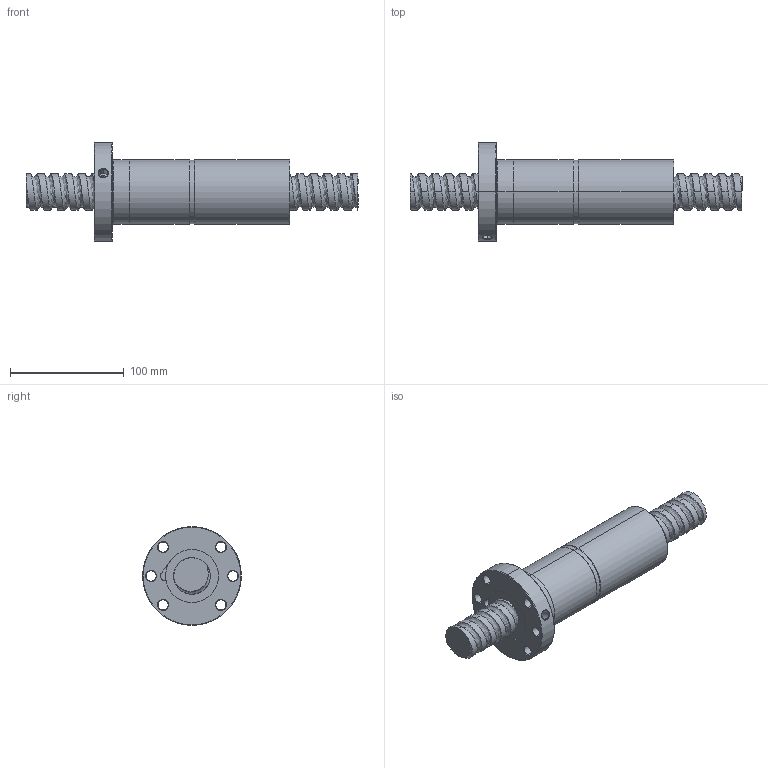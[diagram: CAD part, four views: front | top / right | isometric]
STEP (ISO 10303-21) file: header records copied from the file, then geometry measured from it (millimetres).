
FILE_DESCRIPTION (( 'STEP AP214' ), '1' );
FILE_NAME ('FDDC03212T5-F-A.STEP', '2010-07-06T05:19:35', ( 'XPAUTO' ), ( 'XPAUTO' ), 'SwSTEP 2.0', 'SolidWorks 2007', '' );
FILE_SCHEMA (( 'AUTOMOTIVE_DESIGN' ));
Length unit declared in the file: millimetre
Products named in the file (3): FDDC03212T5-F-A.sldasm-Part-1_預設; FDDC03212T5-F-A; FDDC03212T5-F-A.sldasm-Part-2_預設
Assembly tree (2 placements, depth 2):
  FDDC03212T5-F-A
    FDDC03212T5-F-A.sldasm-Part-1_預設
    FDDC03212T5-F-A.sldasm-Part-2_預設
Bounding box: 292 x 87 x 87 mm (x, y, z)
Volume: 551640.3 mm3; surface area: 97543.5 mm2
Topology: 2 solids, 2 shells, 145 faces, 365 edges, 229 vertices
Faces by surface type: cylinder 90, cone 24, plane 16, torus 10, bspline 5
Entity records: 31322 total; most frequent: CARTESIAN_POINT 27882, ORIENTED_EDGE 730, DIRECTION 661, EDGE_CURVE 365, AXIS2_PLACEMENT_3D 270, VERTEX_POINT 229, EDGE_LOOP 166, FACE_OUTER_BOUND 145
